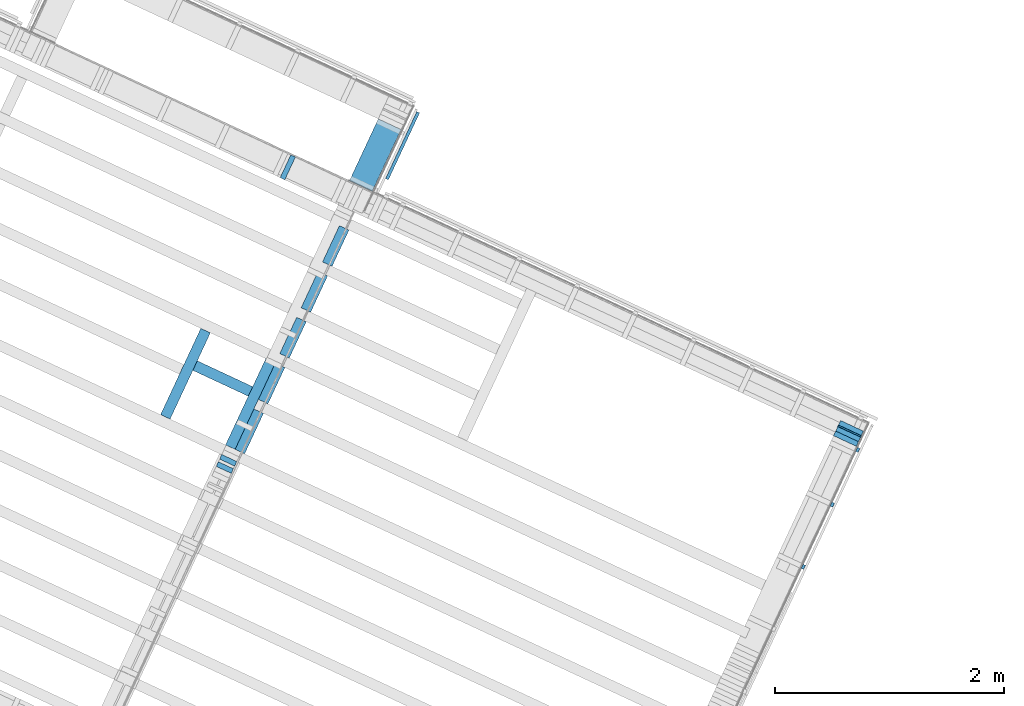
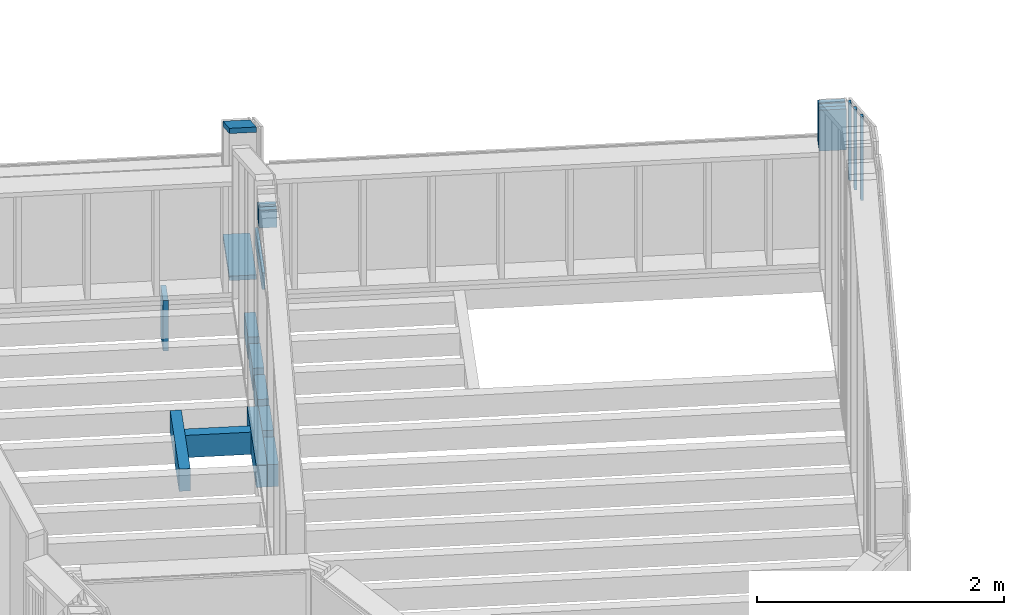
# One storey, part 18 of 24: 21 members.
"""IFC2X3 building model written with IfcOpenShell, lengths in metres."""

from ifc_helpers import new_model, si_unit, direction, frame, origin_with_axes, place, context, subcontext, project, spatial, faceted_brep, material, element, save


model = new_model("IFC2X3")

# Units and contexts
model_context = context("Model", 3, precision=1e-06, world=origin_with_axes(), true_north=direction((0.0, 1.0, 0.0)))
body_context = subcontext(model_context, "Body", "Model", "MODEL_VIEW")
ifc_project = project(units=[si_unit("LENGTHUNIT", "METRE"), si_unit("AREAUNIT", "SQUARE_METRE"), si_unit("VOLUMEUNIT", "CUBIC_METRE"), si_unit("PLANEANGLEUNIT", "RADIAN")], contexts=[model_context])

# Site, building, storey
site_placement = place(None, origin_with_axes())
site = spatial("IfcSite", under=ifc_project, at=site_placement, CompositionType="ELEMENT")
building_placement = place(site_placement, origin_with_axes())
building = spatial("IfcBuilding", under=site, at=building_placement, Name="Building 1", CompositionType="ELEMENT")
storey_placement = place(building_placement, origin_with_axes())
storey = spatial("IfcBuildingStorey", under=building, at=storey_placement, Name="Premier Etage", CompositionType="ELEMENT", Elevation=0.0)

# Members
ifc_material_1 = material(Name="Epicéa C24")
member_1_placement = place(storey_placement, frame((10.810004, 5.9994862, 4.3375886), z_axis=(-0.9063078, 0.4226183, 0.0), x_axis=(0.3659982, 0.7848856, -0.5)))
element("IfcMember", 1, at=member_1_placement, inside=storey, material=ifc_material_1, Name="Montant", context=body_context, shape_type="Brep", body=[
    faceted_brep([(0.6884531, -0.0225, 0.11), (0.6884531, -0.0225, -0.11), (0.7144338, 0.0225, -0.11), (0.7144338, 0.0225, 0.11), (0.0, -0.0225, -0.11), (0.0259808, 0.0225, -0.11), (0.0, -0.0225, 0.11), (0.0259808, 0.0225, 0.11)], [[[0, 1, 2, 3]], [[2, 1, 4, 5]], [[1, 0, 6, 4]], [[3, 2, 5, 7]], [[6, 7, 5, 4]], [[0, 3, 7, 6]]]),
])
ifc_material_2 = material(Name="NH II")
member_2_placement = place(storey_placement, frame((9.1060209, 3.9921591, 2.695), z_axis=(0.0, 0.0, -1.0), x_axis=(0.4226183, 0.9063078, 0.0)))
element("IfcMember", 2, at=member_2_placement, inside=storey, material=ifc_material_2, Name="Solive", context=body_context, shape_type="Brep", body=[
    faceted_brep([(0.0, -0.046, 0.11), (0.0, 0.046, 0.11), (0.0, 0.046, -0.11), (0.0, -0.046, -0.11), (0.8319101, 0.046, 0.11), (0.8319101, 0.046, -0.11), (0.8319101, -0.046, 0.11), (0.8319101, -0.046, -0.11)], [[[0, 1, 2, 3]], [[2, 1, 4, 5]], [[1, 0, 6, 4]], [[5, 4, 6, 7]], [[0, 3, 7, 6]], [[3, 2, 5, 7]]]),
])
member_3_placement = place(storey_placement, frame((15.0976771, 3.8939113, 4.4061489), z_axis=(0.9063078, -0.4226183, 0.0), x_axis=(0.0, 0.0, -1.0)))
element("IfcMember", 3, at=member_3_placement, inside=storey, material=ifc_material_1, Name="Montant", context=body_context, shape_type="Brep", body=[
    faceted_brep([(0.0, 0.0225, -0.11), (0.0, -0.0225, -0.11), (0.0, -0.0225, 0.11), (0.0, 0.0225, 0.11), (0.405094, -0.0225, -0.11), (0.405094, -0.0225, 0.11), (0.405094, 0.0225, -0.11), (0.405094, 0.0225, 0.11)], [[[0, 1, 2, 3]], [[2, 1, 4, 5]], [[1, 0, 6, 4]], [[0, 3, 7, 6]], [[3, 2, 5, 7]], [[4, 6, 7, 5]]]),
])
member_4_placement = place(storey_placement, frame((15.0856325, 3.8680815, 4.4061489), z_axis=(0.9063078, -0.4226183, 0.0), x_axis=(0.0, 0.0, -1.0)))
element("IfcMember", 4, at=member_4_placement, inside=storey, material=ifc_material_1, Name="Montant", context=body_context, shape_type="Brep", body=[
    faceted_brep([(0.0, 0.006, 0.11), (0.0, 0.006, -0.11), (0.0, -0.006, -0.11), (0.0, -0.006, 0.11), (0.405094, 0.006, -0.11), (0.405094, -0.006, -0.11), (0.405094, 0.006, 0.11), (0.405094, -0.006, 0.11)], [[[0, 1, 2, 3]], [[2, 1, 4, 5]], [[1, 0, 6, 4]], [[0, 3, 7, 6]], [[3, 2, 5, 7]], [[4, 6, 7, 5]]]),
])
member_5_placement = place(storey_placement, frame((15.1579038, 3.7036305, 4.4924628), z_axis=(0.9063078, -0.4226183, 0.0), x_axis=(0.0, 0.0, -1.0)))
element("IfcMember", 5, at=member_5_placement, inside=storey, material=ifc_material_1, Name="latte 27/40", context=body_context, shape_type="Brep", body=[
    faceted_brep([(0.7665698, 0.02, -0.012), (0.7665698, 0.02, 0.012), (0.7665698, -0.02, 0.012), (0.7665698, -0.02, -0.012), (0.0, 0.02, 0.012), (0.0, 0.02, -0.012), (0.0, -0.02, -0.012), (0.0, -0.02, 0.012)], [[[0, 1, 2, 3]], [[4, 5, 6, 7]], [[3, 6, 5, 0]], [[2, 7, 6, 3]], [[1, 4, 7, 2]], [[0, 5, 4, 1]]]),
])
member_6_placement = place(storey_placement, frame((10.8147584, 6.0096822, 2.8725), z_axis=(-0.9063078, 0.4226183, 0.0), x_axis=(0.4226183, 0.9063078, 0.0)))
element("IfcMember", 6, at=member_6_placement, inside=storey, material=ifc_material_1, Name="Montant", context=body_context, shape_type="Brep", body=[
    faceted_brep([(0.5962178, 0.0225, -0.11), (0.5962178, 0.0225, 0.11), (0.5962178, -0.0225, 0.11), (0.5962178, -0.0225, -0.11), (0.0, 0.0225, 0.11), (0.0, -0.0225, 0.11), (0.0, 0.0225, -0.11), (0.0, -0.0225, -0.11)], [[[0, 1, 2, 3]], [[1, 4, 5, 2]], [[0, 6, 4, 1]], [[3, 7, 6, 0]], [[2, 5, 7, 3]], [[4, 6, 7, 5]]]),
])
member_7_placement = place(storey_placement, frame((9.625979, 3.549069, 5.4693053), z_axis=(0.9063078, -0.4226183, 0.0), x_axis=(0.0, 0.0, -1.0)))
element("IfcMember", 7, at=member_7_placement, inside=storey, material=ifc_material_1, Name="Montant", context=body_context, shape_type="Brep", body=[
    faceted_brep([(0.0, -0.0225, -0.0725), (0.0, -0.0225, 0.0725), (0.0, 0.0225, 0.0725), (0.0, 0.0225, -0.0725), (0.1783053, -0.0225, 0.0725), (0.1783053, 0.0225, 0.0725), (0.1783053, -0.0225, -0.0725), (0.1783053, 0.0225, -0.0725)], [[[0, 1, 2, 3]], [[2, 1, 4, 5]], [[1, 0, 6, 4]], [[6, 7, 5, 4]], [[0, 3, 7, 6]], [[3, 2, 5, 7]]]),
])
member_8_placement = place(storey_placement, frame((11.0430686, 6.0698294, 2.7225), z_axis=(0.0, 0.0, -1.0), x_axis=(0.4226183, 0.9063078, 0.0)))
element("IfcMember", 8, at=member_8_placement, inside=storey, material=ifc_material_2, Name="contre poutre", context=body_context, shape_type="Brep", body=[
    faceted_brep([(0.6452178, 0.0135, -0.0825), (0.6452178, 0.0135, 0.0825), (0.6452178, -0.0135, 0.0825), (0.6452178, -0.0135, -0.0825), (0.0, 0.0135, 0.0825), (0.0, 0.0135, -0.0825), (0.0, -0.0135, -0.0825), (0.0, -0.0135, 0.0825)], [[[0, 1, 2, 3]], [[4, 5, 6, 7]], [[3, 6, 5, 0]], [[2, 7, 6, 3]], [[1, 4, 7, 2]], [[0, 5, 4, 1]]]),
])
member_9_placement = place(storey_placement, frame((9.3657821, 4.4403734, 2.695), z_axis=(0.0, 0.0, -1.0), x_axis=(0.9063078, -0.4226183, 0.0)))
element("IfcMember", 9, at=member_9_placement, inside=storey, material=ifc_material_2, Name="Solive", context=body_context, shape_type="Brep", body=[
    faceted_brep([(0.5345, -0.046, 0.11), (0.5345, -0.046, -0.11), (0.5345, 0.046, -0.11), (0.5345, 0.046, 0.11), (0.0, -0.046, -0.11), (0.0, 0.046, -0.11), (0.0, -0.046, 0.11), (0.0, 0.046, 0.11)], [[[0, 1, 2, 3]], [[2, 1, 4, 5]], [[1, 0, 6, 4]], [[0, 3, 7, 6]], [[4, 6, 7, 5]], [[3, 2, 5, 7]]]),
])
member_10_placement = place(storey_placement, frame((9.6555623, 3.6125105, 5.4693053), z_axis=(0.9063078, -0.4226183, 0.0), x_axis=(0.0, 0.0, -1.0)))
element("IfcMember", 10, at=member_10_placement, inside=storey, material=ifc_material_1, Name="Montant", context=body_context, shape_type="Brep", body=[
    faceted_brep([(0.0, -0.0225, -0.0725), (0.0, -0.0225, 0.0725), (0.0, 0.0225, 0.0725), (0.0, 0.0225, -0.0725), (0.1783053, -0.0225, 0.0725), (0.1783053, 0.0225, 0.0725), (0.1783053, -0.0225, -0.0725), (0.1783053, 0.0225, -0.0725)], [[[0, 1, 2, 3]], [[2, 1, 4, 5]], [[1, 0, 6, 4]], [[6, 7, 5, 4]], [[0, 3, 7, 6]], [[3, 2, 5, 7]]]),
])
for number, where, z_axis, x_axis in (
    (11, (10.6690614, 5.6439943, 2.695), (0.0, 0.0, -1.0), (-0.4226183, -0.9063078, 0.0)),
    (12, (10.2955428, 4.8429811, 2.695), (0.0, 0.0, -1.0), (-0.4226183, -0.9063078, 0.0)),
    (13, (10.4823021, 5.2434877, 2.695), (0.0, 0.0, -1.0), (-0.4226183, -0.9063078, 0.0)),
):
    element("IfcMember", number, at=place(storey_placement, frame(where, z_axis=z_axis, x_axis=x_axis)), inside=storey, material=ifc_material_2, Name="Solive", context=body_context, shape_type="Brep", body=[
        faceted_brep([(0.0, -0.046, -0.11), (0.0, -0.046, 0.11), (0.0, 0.046, 0.11), (0.0, 0.046, -0.11), (0.3499101, 0.046, -0.11), (0.3499101, -0.046, -0.11), (0.3499101, 0.046, 0.11), (0.3499101, -0.046, 0.11)], [[[0, 1, 2, 3]], [[4, 5, 0, 3]], [[6, 4, 3, 2]], [[7, 6, 2, 1]], [[5, 7, 1, 0]], [[7, 5, 4, 6]]]),
    ])
member_11_placement = place(storey_placement, frame((9.9220242, 4.0419679, 2.695), z_axis=(0.0, 0.0, -1.0), x_axis=(-0.4226183, -0.9063078, 0.0)))
element("IfcMember", 14, at=member_11_placement, inside=storey, material=ifc_material_2, Name="Solive", context=body_context, shape_type="Brep", body=[
    faceted_brep([(0.0, 0.046, 0.11), (0.0, -0.046, 0.11), (0.39, -0.046, 0.11), (0.39, 0.046, 0.11), (0.0, 0.046, -0.11), (0.39, 0.046, -0.11), (0.0, -0.046, -0.11), (0.39, -0.046, -0.11)], [[[0, 1, 2, 3]], [[4, 0, 3, 5]], [[6, 4, 5, 7]], [[1, 6, 7, 2]], [[6, 1, 0, 4]], [[2, 7, 5, 3]]]),
])
member_12_placement = place(storey_placement, frame((10.1087835, 4.4424745, 2.695), z_axis=(0.0, 0.0, -1.0), x_axis=(-0.4226183, -0.9063078, 0.0)))
element("IfcMember", 15, at=member_12_placement, inside=storey, material=ifc_material_2, Name="Solive", context=body_context, shape_type="Brep", body=[
    faceted_brep([(0.0, -0.046, -0.11), (0.0, -0.046, 0.11), (0.0, 0.046, 0.11), (0.0, 0.046, -0.11), (0.3499101, 0.046, -0.11), (0.3499101, -0.046, -0.11), (0.3499101, 0.046, 0.11), (0.3499101, -0.046, 0.11)], [[[0, 1, 2, 3]], [[4, 5, 0, 3]], [[6, 4, 3, 2]], [[7, 6, 2, 1]], [[5, 7, 1, 0]], [[7, 5, 4, 6]]]),
])
member_13_placement = place(storey_placement, frame((10.0254032, 4.4813554, 2.695), z_axis=(0.0, 0.0, -1.0), x_axis=(-0.4226183, -0.9063078, 0.0)))
element("IfcMember", 16, at=member_13_placement, inside=storey, material=ifc_material_2, Name="Solive", context=body_context, shape_type="Brep", body=[
    faceted_brep([(0.0, -0.046, 0.11), (0.0, 0.046, 0.11), (0.0, 0.046, -0.11), (0.0, -0.046, -0.11), (0.8319101, 0.046, 0.11), (0.8319101, 0.046, -0.11), (0.8319101, -0.046, 0.11), (0.8319101, -0.046, -0.11)], [[[0, 1, 2, 3]], [[2, 1, 4, 5]], [[1, 0, 6, 4]], [[5, 4, 6, 7]], [[0, 3, 7, 6]], [[3, 2, 5, 7]]]),
])
for number, where, z_axis, x_axis, name in (
    (17, (15.0735879, 3.8422517, 4.4061489), (0.9063078, -0.4226183, 0.0), (0.0, 0.0, -1.0), "Montant"),
    (18, (15.05457, 3.8014679, 4.4061489), (0.9063078, -0.4226183, 0.0), (0.0, 0.0, -1.0), "Montant"),
):
    element("IfcMember", number, at=place(storey_placement, frame(where, z_axis=z_axis, x_axis=x_axis)), inside=storey, material=ifc_material_1, Name=name, context=body_context, shape_type="Brep", body=[
        faceted_brep([(0.0, 0.0225, -0.11), (0.0, -0.0225, -0.11), (0.0, -0.0225, 0.11), (0.0, 0.0225, 0.11), (0.405094, -0.0225, -0.11), (0.405094, -0.0225, 0.11), (0.405094, 0.0225, -0.11), (0.405094, 0.0225, 0.11)], [[[0, 1, 2, 3]], [[2, 1, 4, 5]], [[1, 0, 6, 4]], [[0, 3, 7, 6]], [[3, 2, 5, 7]], [[4, 6, 7, 5]]]),
    ])
member_14_placement = place(storey_placement, frame((10.1762169, 6.1728268, 2.85), z_axis=(0.4226183, 0.9063078, 0.0), x_axis=(0.0, 0.0, -1.0)))
element("IfcMember", 19, at=member_14_placement, inside=storey, material=ifc_material_1, Name="Montant", context=body_context, shape_type="Brep", body=[
    faceted_brep([(0.0, -0.0225, 0.11), (0.0, 0.0225, 0.11), (0.0, 0.0225, -0.11), (0.0, -0.0225, -0.11), (0.5, 0.0225, 0.11), (0.5, 0.0225, -0.11), (0.5, -0.0225, 0.11), (0.5, -0.0225, -0.11)], [[[0, 1, 2, 3]], [[2, 1, 4, 5]], [[1, 0, 6, 4]], [[3, 2, 5, 7]], [[0, 3, 7, 6]], [[5, 4, 6, 7]]]),
])
member_15_placement = place(storey_placement, frame((14.6813161, 2.6815851, 5.143542), z_axis=(0.9063078, -0.4226183, 0.0), x_axis=(0.0, 0.0, -1.0)))
element("IfcMember", 20, at=member_15_placement, inside=storey, material=ifc_material_1, Name="latte 27/40", context=body_context, shape_type="Brep", body=[
    faceted_brep([(0.8275708, 0.02, -0.012), (0.8275708, 0.02, 0.012), (0.8275708, -0.02, 0.012), (0.8275708, -0.02, -0.012), (0.0, 0.02, 0.012), (0.0, 0.02, -0.012), (0.0, -0.02, -0.012), (0.0, -0.02, 0.012)], [[[0, 1, 2, 3]], [[4, 5, 6, 7]], [[3, 6, 5, 0]], [[2, 7, 6, 3]], [[1, 4, 7, 2]], [[0, 5, 4, 1]]]),
])
member_16_placement = place(storey_placement, frame((14.9348871, 3.2253698, 4.7971319), z_axis=(0.9063078, -0.4226183, 0.0), x_axis=(0.0, 0.0, -1.0)))
element("IfcMember", 21, at=member_16_placement, inside=storey, material=ifc_material_1, Name="latte 27/40", context=body_context, shape_type="Brep", body=[
    faceted_brep([(0.7951149, 0.02, -0.012), (0.7951149, 0.02, 0.012), (0.7951149, -0.02, 0.012), (0.7951149, -0.02, -0.012), (0.0, 0.02, 0.012), (0.0, 0.02, -0.012), (0.0, -0.02, -0.012), (0.0, -0.02, 0.012)], [[[0, 1, 2, 3]], [[4, 5, 6, 7]], [[3, 6, 5, 0]], [[2, 7, 6, 3]], [[1, 4, 7, 2]], [[0, 5, 4, 1]]]),
])

save(model, "model.ifc")
